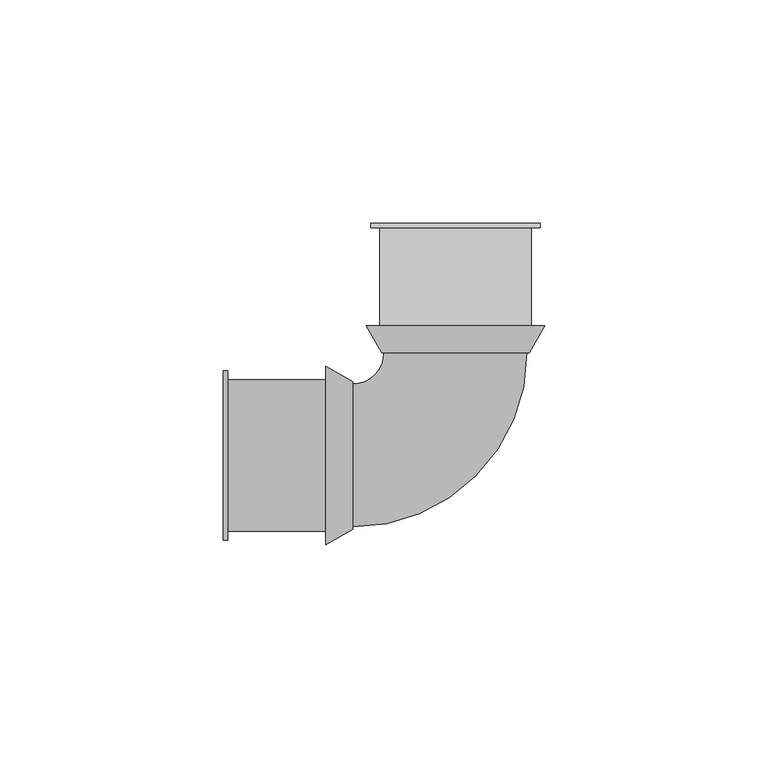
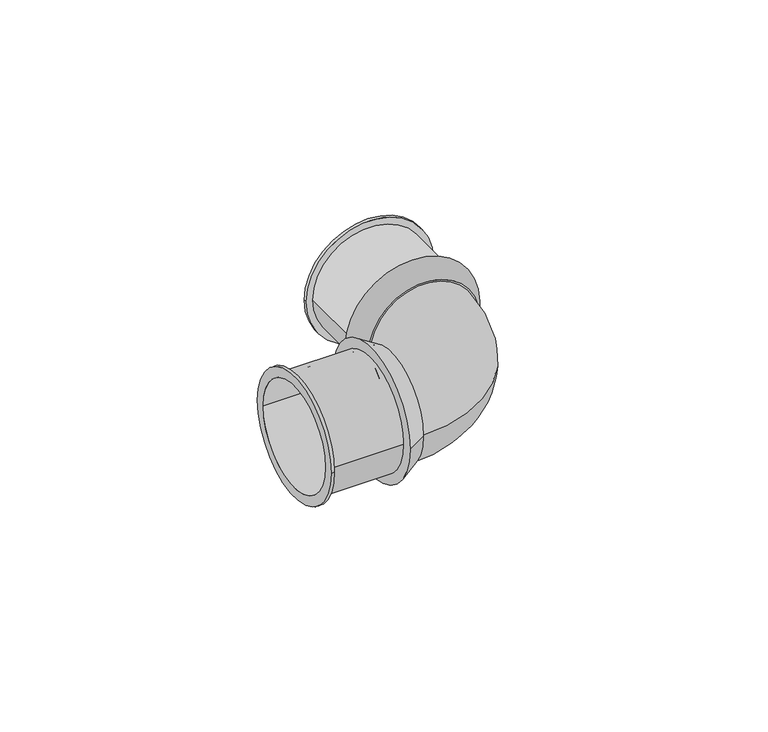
"""IFC4 building model written with IfcOpenShell, lengths in millimetres: pipe fitting geometry, SuperPipe_Elbow_SPressPlus : SuperPipe_Elbow_SPressPlus."""

from ifc_helpers import new_model, si_unit, point, frame, origin, place, context, project, spatial, polyline, circle_curve, ellipse_curve, trimmed, source, transform, mapped, element, save
from ifc_brep_helpers import plane_surface, cylinder_surface, revolved_surface, advanced_brep


def pipe_fitting_00e09e2c(model_context):
    return source(origin(), model_context, "Body", "AdvancedBrep", [
        advanced_brep(
        [(-23.0, -16.5, 0.0), (-23.0, 16.5, 0.0), (-23.0, 16.0, 0.0), (-23.0, -16.0, 0.0), (-29.0, -20.0, 0.0), (-29.0, 20.0, 0.0), (-29.0, -16.0, 0.0), (-29.0, 16.0, 0.0)],
        [
            (0, 1, circle_curve(frame((-23.0, 0.0, 0.0), z_axis=(1.0, 0.0, 0.0), x_axis=(0.0, -1.0, 0.0)), 16.5)),
            (1, 0, circle_curve(frame((-23.0, 0.0, 0.0), z_axis=(1.0, 0.0, 0.0), x_axis=(0.0, 1.0, 0.0)), 16.5)),
            (2, 3, circle_curve(frame((-23.0, 0.0, 0.0), z_axis=(-1.0, 0.0, 0.0), x_axis=(0.0, 1.0, 0.0)), 16.0)),
            (3, 2, circle_curve(frame((-23.0, 0.0, 0.0), z_axis=(-1.0, 0.0, 0.0), x_axis=(0.0, 1.0, 0.0)), 16.0)),
            (4, 5, circle_curve(frame((-29.0, 0.0, 0.0), z_axis=(-1.0, 0.0, 0.0), x_axis=(0.0, 1.0, 0.0)), 20.0)),
            (5, 4, circle_curve(frame((-29.0, 0.0, 0.0), z_axis=(-1.0, 0.0, 0.0), x_axis=(0.0, -1.0, 0.0)), 20.0)),
            (6, 7, circle_curve(frame((-29.0, 0.0, 0.0), z_axis=(1.0, 0.0, 0.0), x_axis=(0.0, 1.0, 0.0)), 16.0)),
            (7, 6, circle_curve(frame((-29.0, 0.0, 0.0), z_axis=(1.0, 0.0, 0.0), x_axis=(0.0, 1.0, 0.0)), 16.0)),
            (0, 4),
            (5, 1),
            (2, 7),
            (6, 3),
        ],
        [
            plane_surface(frame((-23.0, 0.0, 0.0), z_axis=(1.0, 0.0, 0.0), x_axis=(0.0, 0.0, -1.0))),
            plane_surface(frame((-29.0, 0.0, 0.0), z_axis=(-1.0, 0.0, 0.0), x_axis=(0.0, 0.0, -1.0))),
            revolved_surface(polyline([(-23.0, -16.500000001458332, 0.0), (-29.0, -20.0, 0.0)]), (5.2857143, 0.0, 0.0), (-1.0, 0.0, 0.0)),
            revolved_surface(polyline([(-23.0, 16.500000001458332, 0.0), (-29.0, 20.0, 0.0)]), (5.2857143, 0.0, 0.0), (-1.0, 0.0, 0.0)),
            revolved_surface(polyline([(-23.0, 16.0, 0.0), (-29.0, 16.0, 0.0)]), (-29.0, 0.0, 0.0), (1.0, 0.0, 0.0)),
        ],
        [
            (0, [[1, 2], [3, 4]]),
            (1, [[5, 6], [7, 8]]),
            (2, [[-1, 9, -6, 10]]),
            (3, [[-2, -10, -5, -9]]),
            (4, [[11, -7, 12, -3]]),
            (4, [[-11, -4, -12, -8]]),
        ],
    ),
        advanced_brep(
        [(20.0, 29.0, 0.0), (-20.0, 29.0, 0.0), (16.0, 29.0, 0.0), (-16.0, 29.0, 0.0), (16.5, 23.0, 0.0), (-16.5, 23.0, 0.0), (-16.0, 23.0, 0.0), (16.0, 23.0, 0.0)],
        [
            (0, 1, circle_curve(frame((0.0, 29.0, 0.0), z_axis=(0.0, 1.0, 0.0), x_axis=(1.0, 0.0, 0.0)), 20.0)),
            (1, 0, circle_curve(frame((0.0, 29.0, 0.0), z_axis=(0.0, 1.0, 0.0), x_axis=(-1.0, 0.0, 0.0)), 20.0)),
            (2, 3, circle_curve(frame((0.0, 29.0, 0.0), z_axis=(0.0, -1.0, 0.0), x_axis=(-1.0, 0.0, 0.0)), 16.0)),
            (3, 2, circle_curve(frame((0.0, 29.0, 0.0), z_axis=(0.0, -1.0, 0.0), x_axis=(-1.0, 0.0, 0.0)), 16.0)),
            (4, 5, circle_curve(frame((0.0, 23.0, 0.0), z_axis=(0.0, -1.0, 0.0), x_axis=(-1.0, 0.0, 0.0)), 16.5)),
            (5, 4, circle_curve(frame((0.0, 23.0, 0.0), z_axis=(0.0, -1.0, 0.0), x_axis=(1.0, 0.0, 0.0)), 16.5)),
            (6, 7, circle_curve(frame((0.0, 23.0, 0.0), z_axis=(0.0, 1.0, 0.0), x_axis=(-1.0, 0.0, 0.0)), 16.0)),
            (7, 6, circle_curve(frame((0.0, 23.0, 0.0), z_axis=(0.0, 1.0, 0.0), x_axis=(-1.0, 0.0, 0.0)), 16.0)),
            (0, 4),
            (5, 1),
            (6, 3),
            (2, 7),
        ],
        [
            plane_surface(frame((0.0, 29.0, 0.0), z_axis=(0.0, 1.0, 0.0), x_axis=(0.0, 0.0, -1.0))),
            plane_surface(frame((0.0, 23.0, 0.0), z_axis=(0.0, -1.0, 0.0), x_axis=(0.0, 0.0, -1.0))),
            revolved_surface(polyline([(-16.500000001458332, 23.0, 0.0), (-20.0, 29.0, 0.0)]), (0.0, -5.2857143, 0.0), (0.0, 1.0, 0.0)),
            revolved_surface(polyline([(16.500000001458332, 23.0, 0.0), (20.0, 29.0, 0.0)]), (0.0, -5.2857143, 0.0), (0.0, 1.0, 0.0)),
            revolved_surface(polyline([(-16.0, 23.0, 0.0), (-16.0, 29.0, 0.0)]), (0.0, 23.0, 0.0), (0.0, -1.0, 0.0)),
        ],
        [
            (0, [[1, 2], [3, 4]]),
            (1, [[5, 6], [7, 8]]),
            (2, [[-1, 9, -6, 10]]),
            (3, [[-2, -10, -5, -9]]),
            (4, [[11, -3, 12, -7]]),
            (4, [[-11, -8, -12, -4]]),
        ],
    ),
        advanced_brep(
        [(-52.0, -19.0, 0.0), (-52.0, 19.0, 0.0), (-52.0, -16.0, 0.0), (-52.0, 16.0, 0.0), (-29.0, -17.0, 0.0), (-29.0, 17.0, 0.0), (-29.0, -16.0, 0.0), (-29.0, 16.0, 0.0), (-51.0, 17.0, 0.0), (-51.0, -17.0, 0.0), (-51.0, -19.0, 0.0), (-51.0, 19.0, 0.0)],
        [
            (0, 1, circle_curve(frame((-52.0, 0.0, 0.0), z_axis=(-1.0, 0.0, 0.0), x_axis=(0.0, 1.0, 0.0)), 19.0)),
            (1, 0, circle_curve(frame((-52.0, 0.0, 0.0), z_axis=(-1.0, 0.0, 0.0), x_axis=(0.0, 1.0, 0.0)), 19.0)),
            (2, 3, circle_curve(frame((-52.0, 0.0, 0.0), z_axis=(1.0, 0.0, 0.0), x_axis=(0.0, 1.0, 0.0)), 16.0)),
            (3, 2, circle_curve(frame((-52.0, 0.0, 0.0), z_axis=(1.0, 0.0, 0.0), x_axis=(0.0, 1.0, 0.0)), 16.0)),
            (4, 5, circle_curve(frame((-29.0, 0.0, 0.0), z_axis=(1.0, 0.0, 0.0), x_axis=(0.0, 1.0, 0.0)), 17.0)),
            (5, 4, circle_curve(frame((-29.0, 0.0, 0.0), z_axis=(1.0, 0.0, 0.0), x_axis=(0.0, 1.0, 0.0)), 17.0)),
            (6, 7, circle_curve(frame((-29.0, 0.0, 0.0), z_axis=(-1.0, 0.0, 0.0), x_axis=(0.0, 1.0, 0.0)), 16.0)),
            (7, 6, circle_curve(frame((-29.0, 0.0, 0.0), z_axis=(-1.0, 0.0, 0.0), x_axis=(0.0, 1.0, 0.0)), 16.0)),
            (2, 6),
            (7, 3),
            (5, 8),
            (8, 9, circle_curve(frame((-51.0, 0.0, 0.0), z_axis=(1.0, 0.0, 0.0), x_axis=(0.0, 1.0, 0.0)), 17.0)),
            (9, 4),
            (9, 8, circle_curve(frame((-51.0, 0.0, 0.0), z_axis=(1.0, 0.0, 0.0), x_axis=(0.0, 1.0, 0.0)), 17.0)),
            (10, 11, circle_curve(frame((-51.0, 0.0, 0.0), z_axis=(1.0, 0.0, 0.0), x_axis=(0.0, 1.0, 0.0)), 19.0)),
            (11, 10, circle_curve(frame((-51.0, 0.0, 0.0), z_axis=(1.0, 0.0, 0.0), x_axis=(0.0, 1.0, 0.0)), 19.0)),
            (0, 10),
            (11, 1),
        ],
        [
            plane_surface(frame((-52.0, 0.0, 0.0), z_axis=(-1.0, 0.0, 0.0), x_axis=(0.0, 0.0, 1.0))),
            plane_surface(frame((-29.0, 0.0, 0.0), z_axis=(1.0, 0.0, 0.0), x_axis=(0.0, 0.0, 1.0))),
            revolved_surface(polyline([(-29.0, 16.0, 0.0), (-52.0, 16.0, 0.0)]), (-52.0, 0.0, 0.0), (1.0, 0.0, 0.0)),
            cylinder_surface(frame((-52.0, 0.0, 0.0), z_axis=(-1.0, 0.0, 0.0), x_axis=(0.0, 1.0, 0.0)), 17.0),
            plane_surface(frame((-51.0, 0.0, 0.0), z_axis=(1.0, 0.0, 0.0), x_axis=(0.0, 0.0, 1.0))),
            cylinder_surface(frame((-52.0, 0.0, 0.0), z_axis=(-1.0, 0.0, 0.0), x_axis=(0.0, 1.0, 0.0)), 19.0),
        ],
        [
            (0, [[1, 2], [3, 4]]),
            (1, [[5, 6], [7, 8]]),
            (2, [[-3, 9, -8, 10]]),
            (2, [[-4, -10, -7, -9]]),
            (3, [[-6, 11, 12, 13]]),
            (3, [[-5, -13, 14, -11]]),
            (4, [[15, 16], [-12, -14]]),
            (5, [[-1, 17, -16, 18]]),
            (5, [[-2, -18, -15, -17]]),
        ],
    ),
        advanced_brep(
        [(17.0, 29.0, 0.0), (-17.0, 29.0, 0.0), (16.0, 29.0, 0.0), (-16.0, 29.0, 0.0), (19.0, 52.0, 0.0), (-19.0, 52.0, 0.0), (16.0, 52.0, 0.0), (-16.0, 52.0, 0.0), (17.0, 51.0, 0.0), (-17.0, 51.0, 0.0), (19.0, 51.0, 0.0), (-19.0, 51.0, 0.0)],
        [
            (0, 1, circle_curve(frame((0.0, 29.0, 0.0), z_axis=(0.0, -1.0, 0.0), x_axis=(-1.0, 0.0, 0.0)), 17.0)),
            (1, 0, circle_curve(frame((0.0, 29.0, 0.0), z_axis=(0.0, -1.0, 0.0), x_axis=(-1.0, 0.0, 0.0)), 17.0)),
            (2, 3, circle_curve(frame((0.0, 29.0, 0.0), z_axis=(0.0, 1.0, 0.0), x_axis=(-1.0, 0.0, 0.0)), 16.0)),
            (3, 2, circle_curve(frame((0.0, 29.0, 0.0), z_axis=(0.0, 1.0, 0.0), x_axis=(-1.0, 0.0, 0.0)), 16.0)),
            (4, 5, circle_curve(frame((0.0, 52.0, 0.0), z_axis=(0.0, 1.0, 0.0), x_axis=(-1.0, 0.0, 0.0)), 19.0)),
            (5, 4, circle_curve(frame((0.0, 52.0, 0.0), z_axis=(0.0, 1.0, 0.0), x_axis=(-1.0, 0.0, 0.0)), 19.0)),
            (6, 7, circle_curve(frame((0.0, 52.0, 0.0), z_axis=(0.0, -1.0, 0.0), x_axis=(-1.0, 0.0, 0.0)), 16.0)),
            (7, 6, circle_curve(frame((0.0, 52.0, 0.0), z_axis=(0.0, -1.0, 0.0), x_axis=(-1.0, 0.0, 0.0)), 16.0)),
            (0, 8),
            (8, 9, circle_curve(frame((0.0, 51.0, 0.0), z_axis=(0.0, -1.0, 0.0), x_axis=(-1.0, 0.0, 0.0)), 17.0)),
            (9, 1),
            (9, 8, circle_curve(frame((0.0, 51.0, 0.0), z_axis=(0.0, -1.0, 0.0), x_axis=(-1.0, 0.0, 0.0)), 17.0)),
            (2, 6),
            (7, 3),
            (10, 11, circle_curve(frame((0.0, 51.0, 0.0), z_axis=(0.0, -1.0, 0.0), x_axis=(-1.0, 0.0, 0.0)), 19.0)),
            (11, 10, circle_curve(frame((0.0, 51.0, 0.0), z_axis=(0.0, -1.0, 0.0), x_axis=(-1.0, 0.0, 0.0)), 19.0)),
            (11, 5),
            (4, 10),
        ],
        [
            plane_surface(frame((0.0, 29.0, 0.0), z_axis=(0.0, -1.0, 0.0), x_axis=(0.0, 0.0, 1.0))),
            plane_surface(frame((0.0, 52.0, 0.0), z_axis=(0.0, 1.0, 0.0), x_axis=(0.0, 0.0, 1.0))),
            cylinder_surface(frame((0.0, 29.0, 0.0), z_axis=(0.0, -1.0, 0.0), x_axis=(-1.0, 0.0, 0.0)), 17.0),
            revolved_surface(polyline([(-16.0, 52.0, 0.0), (-16.0, 29.0, 0.0)]), (0.0, 29.0, 0.0), (0.0, 1.0, 0.0)),
            plane_surface(frame((0.0, 51.0, 0.0), z_axis=(0.0, -1.0, 0.0), x_axis=(0.0, 0.0, 1.0))),
            cylinder_surface(frame((0.0, 51.0, 0.0), z_axis=(0.0, -1.0, 0.0), x_axis=(-1.0, 0.0, 0.0)), 19.0),
        ],
        [
            (0, [[1, 2], [3, 4]]),
            (1, [[5, 6], [7, 8]]),
            (2, [[-1, 9, 10, 11]]),
            (2, [[-2, -11, 12, -9]]),
            (3, [[-3, 13, -8, 14]]),
            (3, [[-4, -14, -7, -13]]),
            (4, [[15, 16], [-10, -12]]),
            (5, [[-16, 17, -5, 18]]),
            (5, [[-15, -18, -6, -17]]),
        ],
    ),
        advanced_brep(
        [(-23.0, -16.0, 0.0), (-23.0, 16.0, 0.0), (16.0, 23.0, 0.0), (-16.0, 23.0, 0.0)],
        [
            (0, 1, circle_curve(frame((-23.0, 0.0, 0.0), z_axis=(-1.0, 0.0, 0.0), x_axis=(0.0, 1.0, 0.0)), 16.0)),
            (1, 0, circle_curve(frame((-23.0, 0.0, 0.0), z_axis=(-1.0, 0.0, 0.0), x_axis=(0.0, 1.0, 0.0)), 16.0)),
            (2, 3, circle_curve(frame((0.0, 23.0, 0.0), z_axis=(0.0, 1.0, 0.0), x_axis=(-1.0, 0.0, 0.0)), 16.0)),
            (3, 2, circle_curve(frame((0.0, 23.0, 0.0), z_axis=(0.0, 1.0, 0.0), x_axis=(-1.0, 0.0, 0.0)), 16.0)),
            (3, 1, circle_curve(frame((-23.0, 23.0, 0.0), z_axis=(0.0, 0.0, -1.0), x_axis=(0.0, -1.0, 0.0)), 7.0)),
            (0, 2, circle_curve(frame((-23.0, 23.0, 0.0), z_axis=(0.0, 0.0, 1.0), x_axis=(0.0, -1.0, 0.0)), 39.0)),
        ],
        [
            plane_surface(frame((-23.0, 0.0, 0.0), z_axis=(-1.0, 0.0, 0.0), x_axis=(0.0, 0.0, 1.0))),
            plane_surface(frame((0.0, 23.0, 0.0), z_axis=(0.0, 1.0, 0.0), x_axis=(0.0, 0.0, 1.0))),
            revolved_surface(trimmed(ellipse_curve(frame((-23.0, 0.0, 0.0), z_axis=(-1.0, 0.0, 0.0), x_axis=(0.0, 1.0, 0.0)), 16.0, 16.0), [point((-23.0, -16.0, 0.0))], [point((-23.0, 16.0, 0.0))], True, "CARTESIAN"), (-23.0, 23.0, 0.0), (0.0, 0.0, 1.0)),
            revolved_surface(trimmed(ellipse_curve(frame((-23.0, 0.0, 0.0), z_axis=(-1.0, 0.0, 0.0), x_axis=(0.0, 1.0, 0.0)), 16.0, 16.0), [point((-23.0, 16.0, 0.0))], [point((-23.0, -16.0, 0.0))], True, "CARTESIAN"), (-23.0, 23.0, 0.0), (0.0, 0.0, 1.0)),
        ],
        [
            (0, [[1, 2]]),
            (1, [[3, 4]]),
            (2, [[5, -1, 6, -4]]),
            (3, [[-6, -2, -5, -3]]),
        ],
    ),
    ])


if __name__ == "__main__":
    model = new_model("IFC4")
    model_context = context("Model", 3, world=origin())
    ifc_project = project(units=[si_unit("LENGTHUNIT", "METRE", prefix="MILLI")], contexts=[model_context])
    site = spatial("IfcSite", under=ifc_project)
    building = spatial("IfcBuilding", under=site)
    placement = place(None, origin())
    pipe_fitting_shape = pipe_fitting_00e09e2c(model_context)
    element("IfcPipeFitting", 1, ObjectType="SuperPipe_Elbow_SPressPlus : SuperPipe_Elbow_SPressPlus", at=placement, inside=building, context=model_context, shape_type="MappedRepresentation", body=[
        mapped(pipe_fitting_shape, transform((0.0, 0.0, 0.0), x_axis=(1.0, 0.0, 0.0), y_axis=(0.0, 1.0, 0.0), z_axis=(0.0, 0.0, 1.0))),
    ])
    save(model, "model.ifc")
